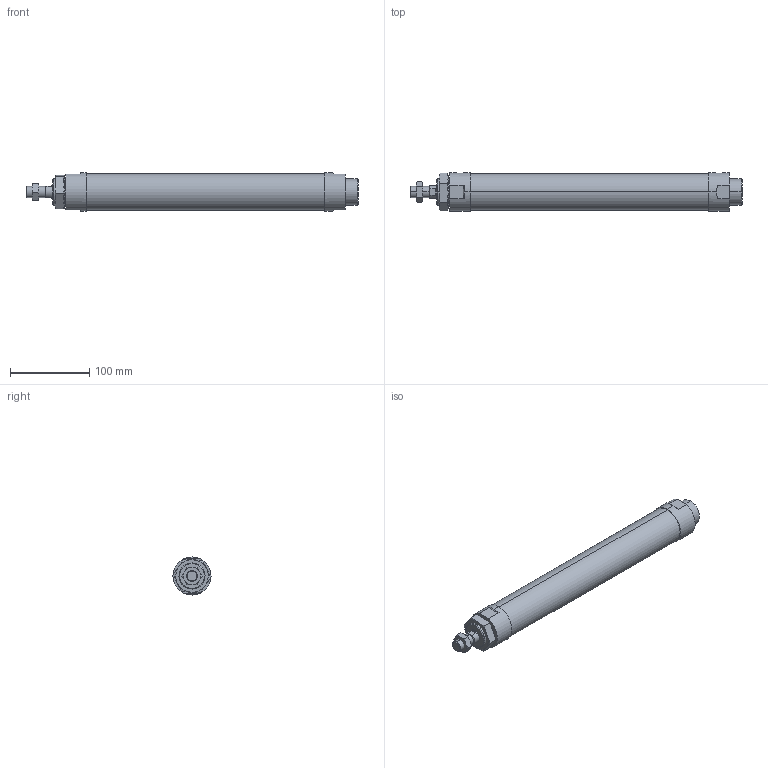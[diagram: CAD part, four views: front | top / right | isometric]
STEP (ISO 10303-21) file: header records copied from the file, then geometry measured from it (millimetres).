
FILE_DESCRIPTION (( 'STEP AP203' ), '1' );
FILE_NAME ('J#2-40-250-N.STEP', '2016-03-08T08:08:24', ( '' ), ( '' ), 'SwSTEP 2.0', 'SolidWorks 2014', '' );
FILE_SCHEMA (( 'CONFIG_CONTROL_DESIGN' ));
Length unit declared in the file: millimetre
Products named in the file (4): J#2-40-250-N; J#2-40-250
Assembly tree (3 placements, depth 2):
  J#2-40-250-N
    J#2-40-250
    (unnamed)
    (unnamed)
Bounding box: 419 x 48 x 48 mm (x, y, z)
Volume: 633294.8 mm3; surface area: 66564.5 mm2
Topology: 3 solids, 3 shells, 94 faces, 210 edges, 125 vertices
Faces by surface type: plane 33, torus 24, cylinder 22, cone 15
Entity records: 3435 total; most frequent: CARTESIAN_POINT 1022, DIRECTION 421, ORIENTED_EDGE 412, EDGE_CURVE 206, AXIS2_PLACEMENT_3D 178, VERTEX_POINT 125, EDGE_LOOP 105, ADVANCED_FACE 94
